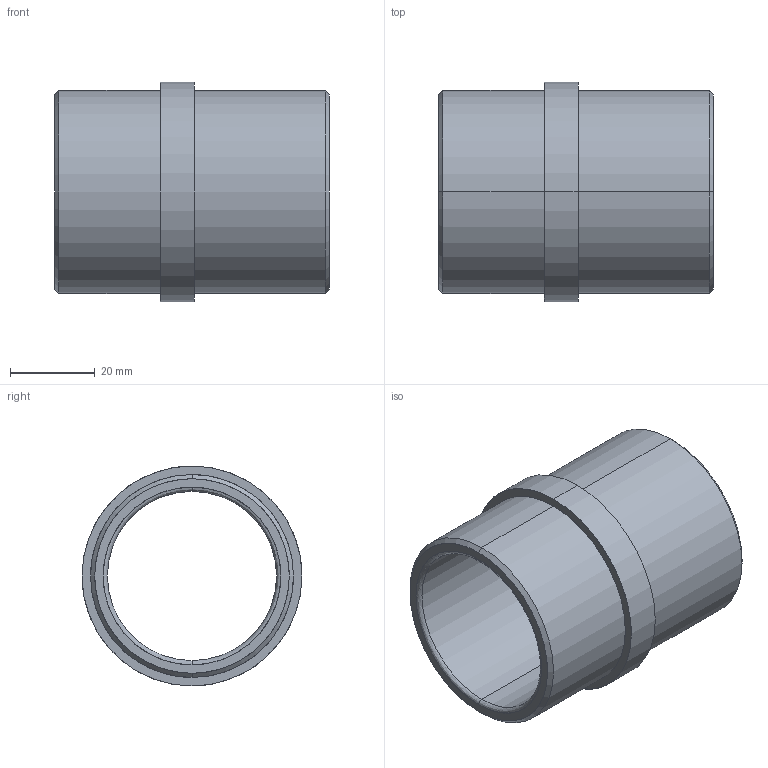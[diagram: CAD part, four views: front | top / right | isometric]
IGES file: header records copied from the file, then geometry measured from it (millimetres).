
Start section: START RECORD GO HERE.
Global section: file name: G403-40X65.igs; native system: DASSAULT SYSTEMES CATIA V5 R20 - www.3ds.com; preprocessor: CATIA Version 5 Release 20 ; author: Utente; organization: NB04-ASUS; date: 20210421.132301; units: millimetre
Bounding box: 65 x 52 x 52 mm (x, y, z)
Surface area: 19518.3 mm2 (no closed solid volume)
Topology: 0 solids, 0 shells, 20 faces, 128 edges, 128 vertices
Faces by surface type: revolution 16, plane 4
